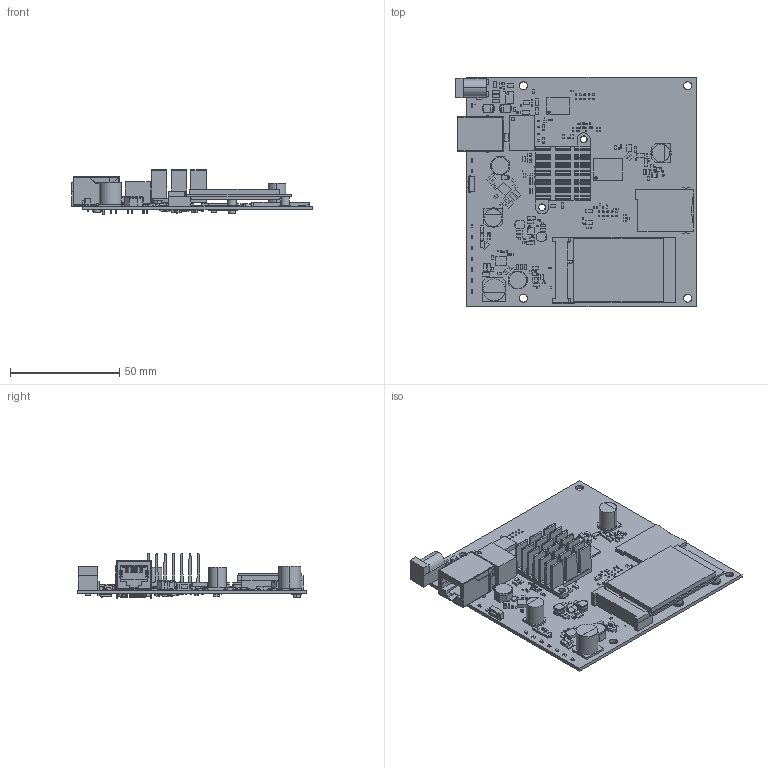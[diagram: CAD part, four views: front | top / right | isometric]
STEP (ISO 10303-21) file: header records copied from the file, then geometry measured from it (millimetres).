
FILE_DESCRIPTION (( 'STEP AP214' ), '1' );
FILE_NAME ('RB_M11.step', '2022-03-03T09:12:35', ( '' ), ( '' ), 'SwSTEP 2.0', 'SolidWorks 2021', '' );
FILE_SCHEMA (( 'AUTOMOTIVE_DESIGN' ));
Length unit declared in the file: millimetre
Products named in the file (1): RB_M11
Bounding box: 110 x 105 x 20.35 mm (x, y, z)
Volume: 38991.4 mm3; surface area: 56262.4 mm2
Topology: 522 solids, 522 shells, 4288 faces, 9530 edges, 6286 vertices
Faces by surface type: plane 3593, cylinder 622, torus 40, sphere 20, bspline 10, cone 3
Entity records: 169769 total; most frequent: CARTESIAN_POINT 21035, DIRECTION 19236, ORIENTED_EDGE 18996, EDGE_CURVE 9498, VECTOR 8126, LINE 8126, VERTEX_POINT 6274, AXIS2_PLACEMENT_3D 5555
